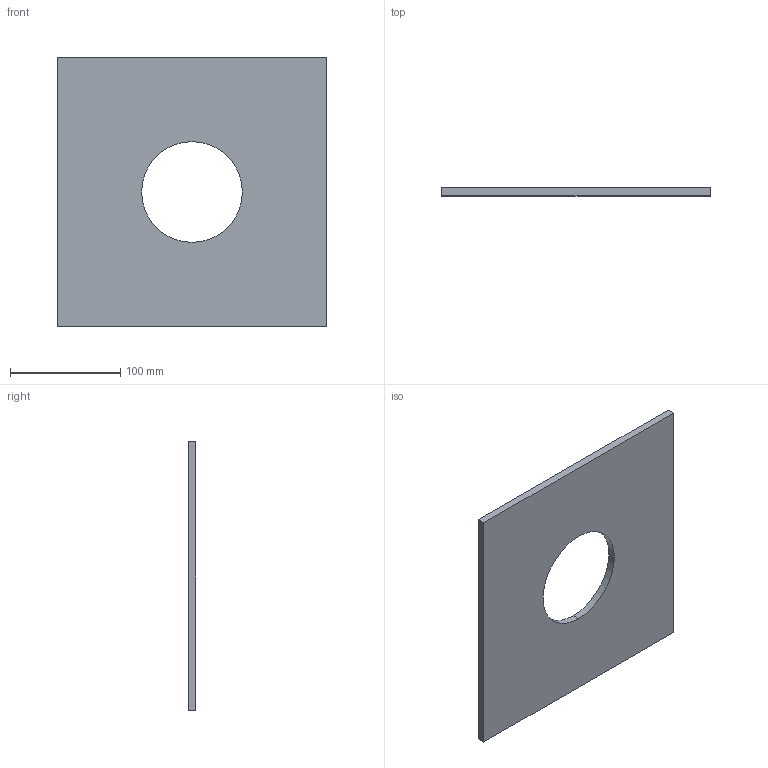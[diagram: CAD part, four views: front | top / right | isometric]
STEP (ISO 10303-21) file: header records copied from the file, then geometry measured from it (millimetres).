
FILE_DESCRIPTION (( 'STEP AP214' ), '1' );
FILE_NAME ('R43_246x246x7_90.STEP', '2016-02-05T20:08:11', ( '' ), ( '' ), 'SwSTEP 2.0', 'SolidWorks 2014', '' );
FILE_SCHEMA (( 'AUTOMOTIVE_DESIGN' ));
Length unit declared in the file: millimetre
Products named in the file (1): R43_246x246x7_90
Bounding box: 244 x 7 x 244 mm (x, y, z)
Volume: 370723.2 mm3; surface area: 114765.1 mm2
Topology: 1 solids, 1 shells, 8 faces, 18 edges, 12 vertices
Faces by surface type: plane 6, cylinder 2
Entity records: 264 total; most frequent: DIRECTION 40, CARTESIAN_POINT 39, ORIENTED_EDGE 36, EDGE_CURVE 18, VECTOR 14, LINE 14, AXIS2_PLACEMENT_3D 13, VERTEX_POINT 12
